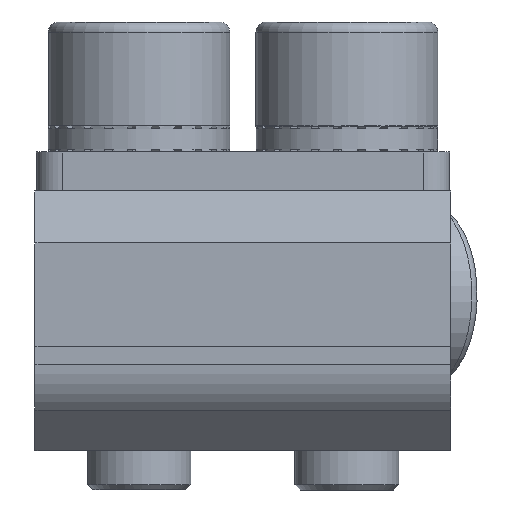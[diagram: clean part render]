
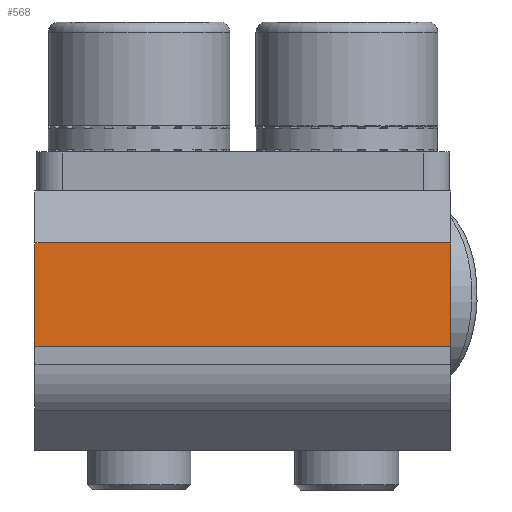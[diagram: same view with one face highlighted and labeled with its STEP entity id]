
A CAD part, left-side view. The second image highlights one B-rep face of the part: STEP entity #568.
In plain terms, the highlighted planar face has unit normal (-1, 0, 0).
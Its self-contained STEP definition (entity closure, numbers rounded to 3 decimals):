
#568=ADVANCED_FACE('',(#1284),#1285,.T.);
#1284=FACE_OUTER_BOUND('',#2211,.T.);
#1285=PLANE('',#2212);
#2211=EDGE_LOOP('',(#3343,#3344,#3345,#3346));
#2212=AXIS2_PLACEMENT_3D('',#3347,#3348,#3349);
#3343=ORIENTED_EDGE('',*,*,#5920,.T.);
#3344=ORIENTED_EDGE('',*,*,#5938,.T.);
#3345=ORIENTED_EDGE('',*,*,#5926,.F.);
#3346=ORIENTED_EDGE('',*,*,#5944,.T.);
#3347=CARTESIAN_POINT('',(-35.1,8.0,4.0));
#3348=DIRECTION('',(-1.0,0.0,0.0));
#3349=DIRECTION('',(0.0,0.0,1.0));
#5920=EDGE_CURVE('',#7105,#7103,#7106,.T.);
#5926=EDGE_CURVE('',#7114,#7115,#7116,.T.);
#5938=EDGE_CURVE('',#7103,#7115,#7133,.T.);
#5944=EDGE_CURVE('',#7114,#7105,#7141,.T.);
#7103=VERTEX_POINT('',#8830);
#7105=VERTEX_POINT('',#8833);
#7106=LINE('',#8834,#8835);
#7114=VERTEX_POINT('',#8847);
#7115=VERTEX_POINT('',#8848);
#7116=LINE('',#8849,#8850);
#7133=LINE('',#8876,#8877);
#7141=LINE('',#8888,#8889);
#8830=CARTESIAN_POINT('',(-35.1,-8.0,6.0));
#8833=CARTESIAN_POINT('',(-35.1,-8.0,2.0));
#8834=CARTESIAN_POINT('',(-35.1,-8.0,4.0));
#8835=VECTOR('',#11000,1.0);
#8847=CARTESIAN_POINT('',(-35.1,8.0,2.0));
#8848=CARTESIAN_POINT('',(-35.1,8.0,6.0));
#8849=CARTESIAN_POINT('',(-35.1,8.0,4.0));
#8850=VECTOR('',#11005,1.0);
#8876=CARTESIAN_POINT('',(-35.1,8.0,6.0));
#8877=VECTOR('',#11015,1.0);
#8888=CARTESIAN_POINT('',(-35.1,8.0,2.0));
#8889=VECTOR('',#11019,1.0);
#11000=DIRECTION('',(0.0,0.0,1.0));
#11005=DIRECTION('',(0.0,0.0,1.0));
#11015=DIRECTION('',(0.0,1.0,0.0));
#11019=DIRECTION('',(0.0,-1.0,0.0));
